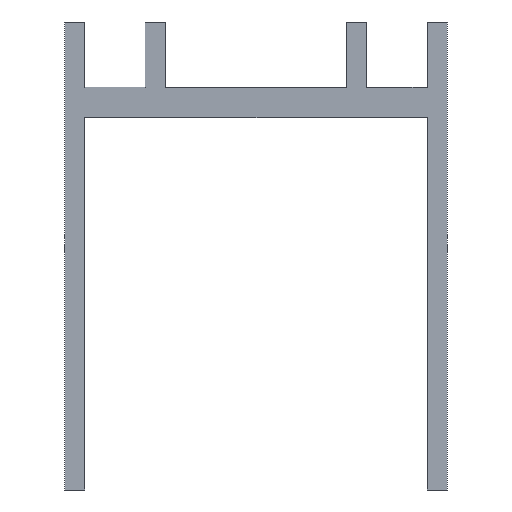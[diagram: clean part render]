
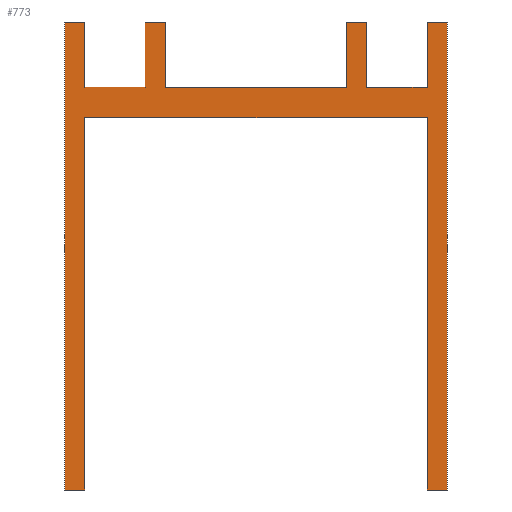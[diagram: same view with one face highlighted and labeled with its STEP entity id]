
A CAD part, left-side view. The second image highlights one B-rep face of the part: STEP entity #773.
In plain terms, the highlighted planar face has unit normal (-1, 0, 0).
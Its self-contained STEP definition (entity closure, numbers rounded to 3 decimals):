
#773=ADVANCED_FACE('',(#1383),#1384,.F.);
#1383=FACE_OUTER_BOUND('',#2156,.T.);
#1384=PLANE('',#2157);
#2156=EDGE_LOOP('',(#3091,#3092,#3093,#3094,#3095,#3096,#3097,#3098,#3099,#3100,#3101,#3102,#3103,#3104,#3105,#3106,#3107,#3108,#3109,#3110,#3111,#3112,#3113,#3114));
#2157=AXIS2_PLACEMENT_3D('',#3115,#3116,#3117);
#3091=ORIENTED_EDGE('',*,*,#3788,.T.);
#3092=ORIENTED_EDGE('',*,*,#3732,.F.);
#3093=ORIENTED_EDGE('',*,*,#3737,.F.);
#3094=ORIENTED_EDGE('',*,*,#3740,.F.);
#3095=ORIENTED_EDGE('',*,*,#3743,.T.);
#3096=ORIENTED_EDGE('',*,*,#3747,.T.);
#3097=ORIENTED_EDGE('',*,*,#3536,.T.);
#3098=ORIENTED_EDGE('',*,*,#3728,.F.);
#3099=ORIENTED_EDGE('',*,*,#3490,.F.);
#3100=ORIENTED_EDGE('',*,*,#3790,.F.);
#3101=ORIENTED_EDGE('',*,*,#3750,.F.);
#3102=ORIENTED_EDGE('',*,*,#3652,.F.);
#3103=ORIENTED_EDGE('',*,*,#3648,.T.);
#3104=ORIENTED_EDGE('',*,*,#3635,.T.);
#3105=ORIENTED_EDGE('',*,*,#3650,.F.);
#3106=ORIENTED_EDGE('',*,*,#3606,.F.);
#3107=ORIENTED_EDGE('',*,*,#3757,.T.);
#3108=ORIENTED_EDGE('',*,*,#3761,.T.);
#3109=ORIENTED_EDGE('',*,*,#3765,.F.);
#3110=ORIENTED_EDGE('',*,*,#3769,.T.);
#3111=ORIENTED_EDGE('',*,*,#3773,.T.);
#3112=ORIENTED_EDGE('',*,*,#3777,.F.);
#3113=ORIENTED_EDGE('',*,*,#3781,.F.);
#3114=ORIENTED_EDGE('',*,*,#3785,.F.);
#3115=CARTESIAN_POINT('',(0.0,26.75,7.5));
#3116=DIRECTION('',(1.0,0.,0.));
#3117=DIRECTION('',(0.,-1.0,0.0));
#3490=EDGE_CURVE('',#4040,#4043,#4044,.T.);
#3536=EDGE_CURVE('',#4125,#4123,#4126,.T.);
#3606=EDGE_CURVE('',#4234,#4207,#4236,.T.);
#3635=EDGE_CURVE('',#4280,#4278,#4281,.T.);
#3648=EDGE_CURVE('',#4295,#4280,#4298,.T.);
#3650=EDGE_CURVE('',#4207,#4278,#4300,.T.);
#3652=EDGE_CURVE('',#4295,#4302,#4303,.T.);
#3728=EDGE_CURVE('',#4043,#4123,#4397,.T.);
#3732=EDGE_CURVE('',#4402,#4404,#4405,.T.);
#3737=EDGE_CURVE('',#4410,#4402,#4412,.T.);
#3740=EDGE_CURVE('',#4415,#4410,#4417,.T.);
#3743=EDGE_CURVE('',#4415,#4420,#4421,.T.);
#3747=EDGE_CURVE('',#4420,#4125,#4426,.T.);
#3750=EDGE_CURVE('',#4302,#4429,#4430,.T.);
#3757=EDGE_CURVE('',#4234,#4438,#4440,.T.);
#3761=EDGE_CURVE('',#4438,#4444,#4446,.T.);
#3765=EDGE_CURVE('',#4450,#4444,#4452,.T.);
#3769=EDGE_CURVE('',#4450,#4456,#4458,.T.);
#3773=EDGE_CURVE('',#4456,#4462,#4464,.T.);
#3777=EDGE_CURVE('',#4468,#4462,#4470,.T.);
#3781=EDGE_CURVE('',#4474,#4468,#4476,.T.);
#3785=EDGE_CURVE('',#4480,#4474,#4482,.T.);
#3788=EDGE_CURVE('',#4480,#4404,#4485,.T.);
#3790=EDGE_CURVE('',#4429,#4040,#4487,.T.);
#4040=VERTEX_POINT('',#4544);
#4043=VERTEX_POINT('',#4548);
#4044=LINE('',#4549,#4550);
#4123=VERTEX_POINT('',#4670);
#4125=VERTEX_POINT('',#4673);
#4126=LINE('',#4674,#4675);
#4207=VERTEX_POINT('',#4789);
#4234=VERTEX_POINT('',#4822);
#4236=LINE('',#4825,#4826);
#4278=VERTEX_POINT('',#4880);
#4280=VERTEX_POINT('',#4882);
#4281=LINE('',#4883,#4884);
#4295=VERTEX_POINT('',#4901);
#4298=LINE('',#4905,#4906);
#4300=LINE('',#4908,#4909);
#4302=VERTEX_POINT('',#4911);
#4303=LINE('',#4912,#4913);
#4397=LINE('',#5042,#5043);
#4402=VERTEX_POINT('',#5049);
#4404=VERTEX_POINT('',#5052);
#4405=LINE('',#5053,#5054);
#4410=VERTEX_POINT('',#5061);
#4412=LINE('',#5064,#5065);
#4415=VERTEX_POINT('',#5068);
#4417=LINE('',#5071,#5072);
#4420=VERTEX_POINT('',#5076);
#4421=LINE('',#5077,#5078);
#4426=LINE('',#5085,#5086);
#4429=VERTEX_POINT('',#5090);
#4430=LINE('',#5091,#5092);
#4438=VERTEX_POINT('',#5103);
#4440=LINE('',#5106,#5107);
#4444=VERTEX_POINT('',#5112);
#4446=LINE('',#5115,#5116);
#4450=VERTEX_POINT('',#5121);
#4452=LINE('',#5124,#5125);
#4456=VERTEX_POINT('',#5130);
#4458=LINE('',#5133,#5134);
#4462=VERTEX_POINT('',#5139);
#4464=LINE('',#5142,#5143);
#4468=VERTEX_POINT('',#5148);
#4470=LINE('',#5151,#5152);
#4474=VERTEX_POINT('',#5157);
#4476=LINE('',#5160,#5161);
#4480=VERTEX_POINT('',#5166);
#4482=LINE('',#5169,#5170);
#4485=LINE('',#5174,#5175);
#4487=LINE('',#5177,#5178);
#4544=CARTESIAN_POINT('',(0.0,9.0,46.5));
#4548=CARTESIAN_POINT('',(0.0,9.0,40.0));
#4549=CARTESIAN_POINT('',(0.0,9.0,46.5));
#4550=VECTOR('',#5200,1.0);
#4670=CARTESIAN_POINT('',(0.0,-9.0,40.0));
#4673=CARTESIAN_POINT('',(0.0,-9.0,46.5));
#4674=CARTESIAN_POINT('',(0.0,-9.0,46.5));
#4675=VECTOR('',#5243,1.0);
#4789=CARTESIAN_POINT('',(0.0,11.005,40.0));
#4822=CARTESIAN_POINT('',(0.0,17.0,40.0));
#4825=CARTESIAN_POINT('',(0.0,17.0,40.0));
#4826=VECTOR('',#5329,1.0);
#4880=CARTESIAN_POINT('',(0.0,11.005,40.005));
#4882=CARTESIAN_POINT('',(0.0,11.003,40.005));
#4883=CARTESIAN_POINT('',(0.0,11.003,40.005));
#4884=VECTOR('',#5369,1.0);
#4901=CARTESIAN_POINT('',(0.0,11.003,40.0));
#4905=CARTESIAN_POINT('',(0.0,11.003,40.0));
#4906=VECTOR('',#5386,1.0);
#4908=CARTESIAN_POINT('',(0.0,11.005,40.0));
#4909=VECTOR('',#5387,1.0);
#4911=CARTESIAN_POINT('',(0.0,11.0,40.0));
#4912=CARTESIAN_POINT('',(0.0,17.0,40.0));
#4913=VECTOR('',#5388,1.0);
#5042=CARTESIAN_POINT('',(0.0,17.0,40.0));
#5043=VECTOR('',#5460,1.0);
#5049=CARTESIAN_POINT('',(0.0,-17.0,46.5));
#5052=CARTESIAN_POINT('',(0.0,-19.0,46.5));
#5053=CARTESIAN_POINT('',(0.0,-17.0,46.5));
#5054=VECTOR('',#5463,1.0);
#5061=CARTESIAN_POINT('',(0.0,-17.0,40.0));
#5064=CARTESIAN_POINT('',(0.0,-17.0,0.0));
#5065=VECTOR('',#5467,1.0);
#5068=CARTESIAN_POINT('',(0.0,-11.0,40.0));
#5071=CARTESIAN_POINT('',(0.0,17.0,40.0));
#5072=VECTOR('',#5469,1.0);
#5076=CARTESIAN_POINT('',(0.0,-11.0,46.5));
#5077=CARTESIAN_POINT('',(0.0,-11.0,40.0));
#5078=VECTOR('',#5471,1.0);
#5085=CARTESIAN_POINT('',(0.0,-11.0,46.5));
#5086=VECTOR('',#5474,1.0);
#5090=CARTESIAN_POINT('',(0.0,11.0,46.5));
#5091=CARTESIAN_POINT('',(0.0,11.0,40.0));
#5092=VECTOR('',#5476,1.0);
#5103=CARTESIAN_POINT('',(0.0,17.0,46.5));
#5106=CARTESIAN_POINT('',(0.0,17.0,0.0));
#5107=VECTOR('',#5481,1.0);
#5112=CARTESIAN_POINT('',(0.0,19.0,46.5));
#5115=CARTESIAN_POINT('',(0.0,17.0,46.5));
#5116=VECTOR('',#5484,1.0);
#5121=CARTESIAN_POINT('',(0.0,19.0,0.0));
#5124=CARTESIAN_POINT('',(0.0,19.,7.5));
#5125=VECTOR('',#5487,1.0);
#5130=CARTESIAN_POINT('',(0.0,17.0,0.0));
#5133=CARTESIAN_POINT('',(0.0,19.5,0.0));
#5134=VECTOR('',#5490,1.0);
#5139=CARTESIAN_POINT('',(0.0,17.0,37.0));
#5142=CARTESIAN_POINT('',(0.0,17.0,0.0));
#5143=VECTOR('',#5493,1.0);
#5148=CARTESIAN_POINT('',(0.0,-17.0,37.0));
#5151=CARTESIAN_POINT('',(0.0,-17.0,37.0));
#5152=VECTOR('',#5496,1.0);
#5157=CARTESIAN_POINT('',(0.0,-17.0,0.0));
#5160=CARTESIAN_POINT('',(0.0,-17.0,0.0));
#5161=VECTOR('',#5499,1.0);
#5166=CARTESIAN_POINT('',(0.0,-19.0,0.0));
#5169=CARTESIAN_POINT('',(0.0,-19.5,0.0));
#5170=VECTOR('',#5502,1.0);
#5174=CARTESIAN_POINT('',(0.0,-19.,7.5));
#5175=VECTOR('',#5504,1.0);
#5177=CARTESIAN_POINT('',(0.0,11.0,46.5));
#5178=VECTOR('',#5505,1.0);
#5200=DIRECTION('',(0.0,0.,-1.0));
#5243=DIRECTION('',(0.0,0.,-1.0));
#5329=DIRECTION('',(0.,-1.0,0.));
#5369=DIRECTION('',(0.0,1.0,0.));
#5386=DIRECTION('',(0.0,0.,1.0));
#5387=DIRECTION('',(0.0,0.,1.0));
#5388=DIRECTION('',(0.,-1.0,0.));
#5460=DIRECTION('',(0.,-1.0,0.));
#5463=DIRECTION('',(0.,-1.0,0.));
#5467=DIRECTION('',(0.,0.0,1.0));
#5469=DIRECTION('',(0.,-1.0,0.));
#5471=DIRECTION('',(0.0,0.,1.0));
#5474=DIRECTION('',(0.0,1.0,0.));
#5476=DIRECTION('',(0.0,0.,1.0));
#5481=DIRECTION('',(0.,0.0,1.0));
#5484=DIRECTION('',(0.,1.0,0.));
#5487=DIRECTION('',(0.,0.,1.0));
#5490=DIRECTION('',(0.,-1.0,0.0));
#5493=DIRECTION('',(0.,0.0,1.0));
#5496=DIRECTION('',(0.,1.0,0.));
#5499=DIRECTION('',(0.,0.0,1.0));
#5502=DIRECTION('',(0.,1.0,0.0));
#5504=DIRECTION('',(0.,0.,1.0));
#5505=DIRECTION('',(0.0,-1.0,0.));
